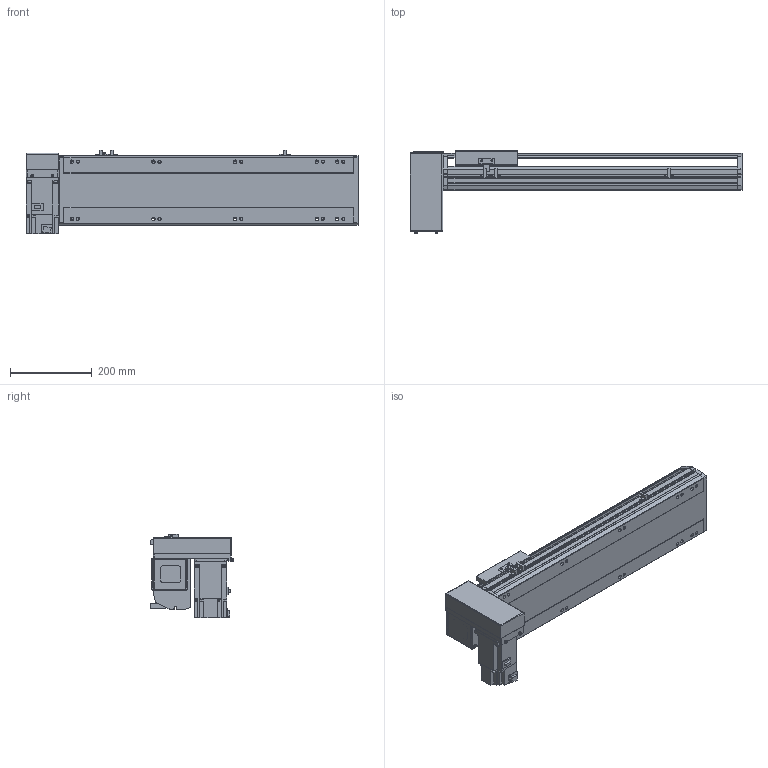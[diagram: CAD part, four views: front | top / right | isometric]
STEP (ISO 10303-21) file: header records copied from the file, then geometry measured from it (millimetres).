
FILE_DESCRIPTION(/* description */ ('STEP AP214'),/* implementation_level */ '2;1');
FILE_NAME(/* name */ 'PBS170-P40-S450-RD-T75-C1-N(0)',/* time_stamp */ '2022-06-08T07:34:22+02:00',/* author */ ('License CC BY-ND 4.0'),/* organization */ ('CADENAS'),/* preprocessor_version */ 'ST-DEVELOPER v18.102',/* originating_system */ 'PARTsolutions',/* authorisation */ ' ');
FILE_SCHEMA (('FEATURE_BASED_PROCESS_PLANNING','AUTOMOTIVE_DESIGN {1 0 10303 214 3 1 1}'));
Length unit declared in the file: millimetre
Products named in the file (7): PBS170-P40-S450-RD-T75-C1-N(0); PBS170_sensor; PBS170_plant; PBS170_sliser; T75-p1; PBS170T-RD_motors; PBS170-S450()_body
Assembly tree (8 placements, depth 2):
  PBS170-P40-S450-RD-T75-C1-N(0)
    PBS170_sensor  x3
    PBS170_plant
    PBS170_sliser
    T75-p1
    PBS170T-RD_motors
    PBS170-S450()_body
Bounding box: 813 x 201 x 205.3 mm (x, y, z)
Volume: 7068767.2 mm3; surface area: 968427.6 mm2
Topology: 8 solids, 8 shells, 1034 faces, 2755 edges, 1796 vertices
Faces by surface type: plane 669, cylinder 315, cone 40, sphere 8, torus 2
Full cylindrical faces by diameter (mm): 3.242 x4, 4 x2, 4.4 x4, 4.5 x6, 4.917 x4, 6 x9, 6.647 x18, 7 x2, 7.5 x4, 8 x8, 8.5 x10, 10 x4, 10.5 x10, 11 x2, 30 x2, 40 x1, 70 x1
Entity records: 29744 total; most frequent: CARTESIAN_POINT 5377, DIRECTION 5090, ORIENTED_EDGE 4848, EDGE_CURVE 2424, AXIS2_PLACEMENT_3D 1747, VERTEX_POINT 1658, LINE 1596, VECTOR 1596
